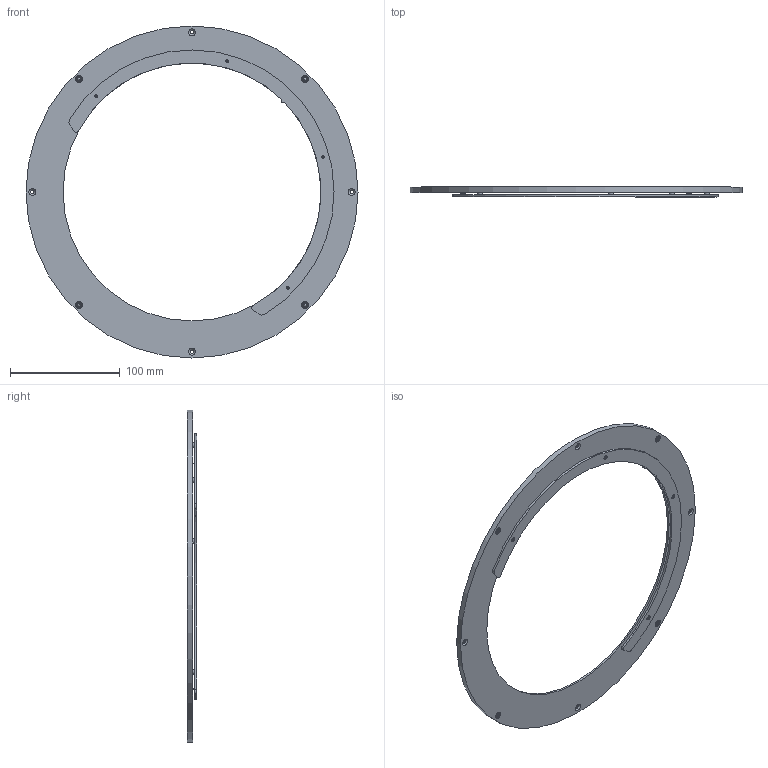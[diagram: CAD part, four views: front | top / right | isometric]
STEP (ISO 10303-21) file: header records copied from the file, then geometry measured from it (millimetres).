
FILE_DESCRIPTION(/* description */ ('Unknown'),/* implementation_level */ '2;1');
FILE_NAME(/* name */ 'Optical Demo Set -L',/* time_stamp */ '2022-08-22T10:33:11+02:00',/* author */ ('Unknown'),/* organization */ ('Unknown'),/* preprocessor_version */ 'ST-DEVELOPER v18.102',/* originating_system */ 'Solid Edge',/* authorisation */ 'Unknown');
FILE_SCHEMA (('AUTOMOTIVE_DESIGN {1 0 10303 214 3 1 1}'));
Length unit declared in the file: millimetre
Products named in the file (1): 99017610 Optical Demo Set -L
Bounding box: 302.6 x 9 x 302.6 mm (x, y, z)
Volume: 98932.2 mm3; surface area: 80082.5 mm2
Topology: 5 solids, 5 shells, 206 faces, 473 edges, 316 vertices
Faces by surface type: plane 99, cylinder 63, cone 32, torus 8, sphere 4
Full cylindrical faces by diameter (mm): 2.459 x4, 3 x4, 3.135 x4, 3.2 x4, 3.4 x8, 3.5 x12, 4.2 x4, 4.3 x4, 5.3 x4, 5.5 x4, 235 x1, 280 x1, 302.6 x1
Entity records: 6228 total; most frequent: DIRECTION 904, CARTESIAN_POINT 797, ORIENTED_EDGE 648, AXIS2_PLACEMENT_3D 373, EDGE_LOOP 368, FACE_BOUND 368, EDGE_CURVE 324, VERTEX_POINT 266
